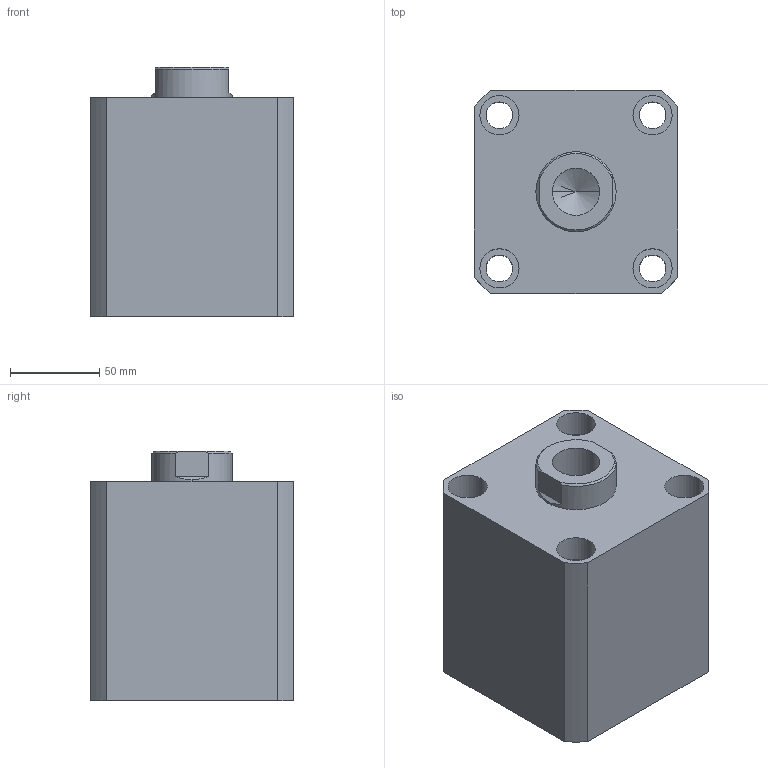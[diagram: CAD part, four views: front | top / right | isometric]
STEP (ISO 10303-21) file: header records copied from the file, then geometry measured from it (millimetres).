
FILE_DESCRIPTION (( 'STEP AP203' ), '1' );
FILE_NAME ('HTB-SDMB80-45N.STEP', '2019-10-09T06:04:32', ( '微软用户' ), ( '微软中国' ), 'SwSTEP 2.0', 'SolidWorks 2012', '' );
FILE_SCHEMA (( 'CONFIG_CONTROL_DESIGN' ));
Length unit declared in the file: millimetre
Products named in the file (3): HTB-SDMB80-45掛极; HTB-SDMB80-45N活塞杆; HTB-SDMB80-45N
Assembly tree (2 placements, depth 2):
  HTB-SDMB80-45N
    HTB-SDMB80-45掛极
    HTB-SDMB80-45N活塞杆
Bounding box: 114 x 114 x 140 mm (x, y, z)
Volume: 1316184.4 mm3; surface area: 168824.3 mm2
Topology: 2 solids, 2 shells, 137 faces, 331 edges, 217 vertices
Faces by surface type: plane 65, cylinder 46, bspline 16, torus 6, cone 4
Entity records: 5070 total; most frequent: CARTESIAN_POINT 1576, ORIENTED_EDGE 658, DIRECTION 647, EDGE_CURVE 329, AXIS2_PLACEMENT_3D 232, VERTEX_POINT 217, LINE 183, VECTOR 183
